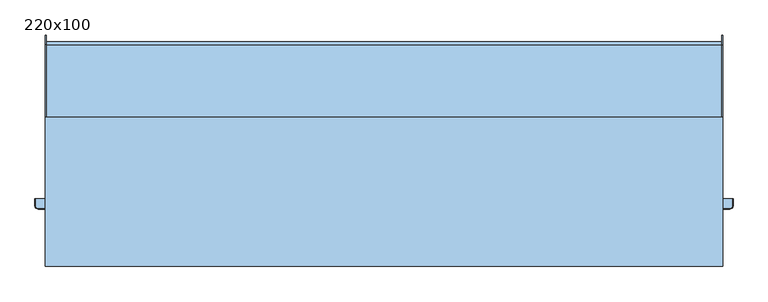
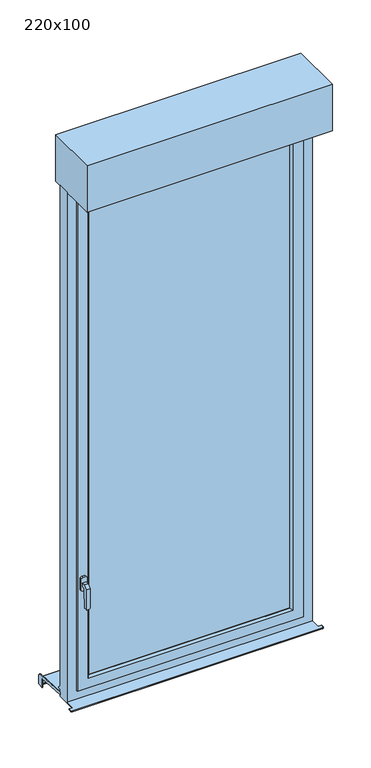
"""IFC4 building model written with IfcOpenShell, lengths in millimetres: window geometry, Tunnel 1V+VR+ Voile : 220x100."""

from ifc_helpers import new_model, si_unit, frame, origin, place, context, project, spatial, polyline, circle_curve, outline, extrude, faceted_brep, source, transform, mapped, element, save
from ifc_brep_helpers import plane_surface, cylinder_surface, revolved_surface, advanced_brep


def window_220x100_ace72829(model_context):
    return source(origin(), model_context, "Body", "SolidModel", [
        faceted_brep([(-445.5, -73.0, 1306.0), (-429.5, -73.0, 1306.0), (-429.5, -73.0, 1294.0), (-445.5, -73.0, 1294.0), (-445.5, -85.4852814, 1306.0), (-429.5, -85.4852814, 1306.0), (-429.5, -99.0, 1292.4852814), (-429.5, -99.0, 1208.5355339), (-429.5, -89.7580139, 1208.5355339), (-429.5, -87.0099909, 1287.2286157), (-429.5, -87.0, 1287.5147186), (-429.5, -80.5147186, 1294.0), (-445.5, -80.5147186, 1294.0), (-445.5, -87.0, 1287.5147186), (-445.5, -87.0, 1287.2282668), (-445.5, -89.7580139, 1208.5355339), (-445.5, -99.0, 1208.5355339), (-445.5, -99.0, 1292.4852814), (-433.0355339, -99.0, 1205.0), (-441.9644661, -99.0, 1205.0), (-441.9644661, -89.8814775, 1205.0), (-433.0355339, -89.8814775, 1205.0)], [[[0, 1, 2, 3]], [[1, 0, 4, 5]], [[2, 1, 5, 6, 7, 8, 9, 10, 11]], [[3, 2, 11, 12]], [[0, 3, 12, 13, 14, 15, 16, 17, 4]], [[5, 4, 17, 6]], [[11, 10, 13, 12]], [[18, 19, 20, 21]], [[6, 17, 16, 19, 18, 7]], [[13, 10, 9, 14]], [[14, 9, 8, 21, 20, 15]], [[8, 7, 18, 21]], [[16, 15, 20, 19]]]),
        extrude(outline(polyline([(1330.0, -444.5), (1325.0, -449.5), (1275.0, -449.5), (1270.0, -444.5), (1270.0, -430.5), (1275.0, -425.5), (1325.0, -425.5), (1330.0, -430.5), (1330.0, -444.5)])), frame((0.0, -73.0, 0.0), z_axis=(0.0, 1.0, 0.0), x_axis=(0.0, 0.0, 1.0)), (0.0, 0.0, 1.0), 8.0),
        advanced_brep(
        [(-500.0, 115.0, 762.0), (-500.0, 115.0, 799.2138833), (-500.0, -10.0, 805.7648557), (-500.0, -10.0, 817.2806377), (-500.0, 127.2850393, 810.0858337), (-500.0, 141.5, 795.1063906), (-500.0, 141.5, 762.0), (500.0, 115.0, 799.2138833), (500.0, 115.0, 762.0), (500.0, 141.5, 762.0), (500.0, 141.5, 795.1063906), (500.0, 127.2850393, 810.0858337), (500.0, -10.0, 817.2806377), (500.0, -10.0, 805.7648557), (-498.0, -10.0, 817.2806377), (498.0, -10.0, 817.2806377), (498.0, -10.0, 807.2669142), (-498.0, -10.0, 807.2669142), (-498.0, 126.7616798, 800.0995383), (498.0, 126.7616798, 800.0995383), (498.0, 131.5, 795.1063906), (498.0, 131.5, 762.0), (-498.0, 131.5, 762.0), (-498.0, 131.5, 795.1063906), (-498.0, 130.0, 762.0), (-498.0, 115.0, 762.0), (-498.0, 141.5, 762.0), (498.0, 141.5, 762.0), (498.0, 115.0, 762.0), (498.0, 130.0, 762.0), (-498.0, 120.0, 772.0), (498.0, 120.0, 772.0), (-498.0, 121.0606602, 773.0606602), (498.0, 121.0606602, 773.0606602), (-498.0, 130.0, 764.1213203), (498.0, 130.0, 764.1213203), (-498.0, 130.0, 795.0728058), (498.0, 130.0, 795.0728058), (-498.0, 115.0, 799.2138833), (-498.0, 126.649637, 798.6033517), (498.0, 126.649637, 798.6033517), (498.0, 115.0, 799.2138833), (498.0, 127.2850393, 810.0858337), (498.0, 141.5, 795.1063906), (-498.0, 141.5, 795.1063906), (-498.0, 127.2850393, 810.0858337)],
        [
            (0, 1),
            (1, 2),
            (2, 3),
            (3, 4),
            (4, 5, circle_curve(frame((-500.0, 126.5, 795.1063906), z_axis=(-1.0, 0.0, 0.0), x_axis=(0.0, 0.05233595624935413, 0.9986295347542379)), 15.0)),
            (5, 6),
            (6, 0),
            (7, 8),
            (8, 9),
            (9, 10),
            (10, 11, circle_curve(frame((500.0, 126.5, 795.1063906), z_axis=(1.0, 0.0, 0.0), x_axis=(0.0, 1.0, 0.0)), 15.0)),
            (11, 12),
            (12, 13),
            (13, 7),
            (14, 3),
            (2, 13),
            (12, 15),
            (15, 16),
            (16, 17),
            (17, 14),
            (18, 17),
            (16, 19),
            (19, 18),
            (20, 21),
            (21, 22),
            (22, 23),
            (23, 20),
            (24, 25),
            (25, 0),
            (6, 26),
            (26, 22),
            (21, 27),
            (27, 9),
            (8, 28),
            (28, 29),
            (29, 24),
            (30, 24),
            (29, 31),
            (31, 30),
            (32, 30),
            (31, 33),
            (33, 32),
            (34, 32),
            (33, 35),
            (35, 34),
            (36, 34),
            (35, 37),
            (37, 36),
            (38, 39),
            (39, 40),
            (40, 41),
            (41, 7),
            (1, 38),
            (38, 25),
            (36, 39, circle_curve(frame((-498.0, 126.4646089, 795.0728058), z_axis=(1.0, 0.0, 0.0), x_axis=(0.0, -1.0, 0.0)), 3.5353911)),
            (28, 41),
            (40, 37, circle_curve(frame((498.0, 126.4646089, 795.0728058), z_axis=(-1.0, 0.0, 0.0), x_axis=(0.0, -1.0, 0.0)), 3.5353911)),
            (19, 20, circle_curve(frame((498.0, 126.5, 795.1063906), z_axis=(-1.0, 0.0, 0.0), x_axis=(0.0, -1.0, 0.0)), 5.0)),
            (23, 18, circle_curve(frame((-498.0, 126.5, 795.1063906), z_axis=(1.0, 0.0, 0.0), x_axis=(0.0, -1.0, 0.0)), 5.0)),
            (15, 42),
            (42, 43, circle_curve(frame((498.0, 126.5, 795.1063906), z_axis=(-1.0, 0.0, 0.0), x_axis=(0.0, 1.0, 0.0)), 15.0)),
            (43, 27),
            (43, 10),
            (42, 11),
            (26, 44),
            (44, 45, circle_curve(frame((-498.0, 126.5, 795.1063906), z_axis=(1.0, 0.0, 0.0), x_axis=(0.0, 0.05233595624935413, 0.9986295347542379)), 15.0)),
            (45, 14),
            (45, 4),
            (44, 5),
        ],
        [
            plane_surface(frame((-500.0, -10.0, 805.7648557), z_axis=(-1.0, 0.0, 0.0), x_axis=(0.0, 0.0, 1.0))),
            plane_surface(frame((500.0, -10.0, 805.7648557), z_axis=(1.0, 0.0, 0.0), x_axis=(0.0, 0.0, -1.0))),
            plane_surface(frame((-500.0, -10.0, 805.7648557), z_axis=(0.0, -1.0, 0.0), x_axis=(1.0, 0.0, 0.0))),
            plane_surface(frame((-500.0, -10.0, 807.2669142), z_axis=(0.0, 0.052335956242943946, 0.9986295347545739), x_axis=(1.0, 0.0, 0.0))),
            plane_surface(frame((-500.0, 131.5, 795.1063906), z_axis=(0.0, 1.0, 0.0), x_axis=(1.0, 0.0, 0.0))),
            plane_surface(frame((-500.0, 131.5, 762.0), z_axis=(0.0, 0.0, -1.0), x_axis=(1.0, 0.0, 0.0))),
            plane_surface(frame((-500.0, 130.0, 762.0), z_axis=(0.0, -0.7071067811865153, -0.7071067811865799), x_axis=(1.0, 0.0, 0.0))),
            plane_surface(frame((-500.0, 120.0, 772.0), z_axis=(0.0, -0.7071067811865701, 0.707106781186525), x_axis=(1.0, 0.0, 0.0))),
            plane_surface(frame((-500.0, 121.0606602, 773.0606602), z_axis=(0.0, 0.7071067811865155, 0.7071067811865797), x_axis=(1.0, 0.0, 0.0))),
            plane_surface(frame((-500.0, 130.0, 764.1213203), z_axis=(0.0, -1.0, 0.0), x_axis=(1.0, 0.0, 0.0))),
            plane_surface(frame((-500.0, 126.649637, 798.6033517), z_axis=(0.0, -0.0523359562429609, -0.998629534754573), x_axis=(1.0, 0.0, 0.0))),
            plane_surface(frame((-498.0, 130.0, 798.4277666), z_axis=(1.0, 0.0, 0.0), x_axis=(0.0, -0.9986295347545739, 0.05233595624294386))),
            plane_surface(frame((-500.0, 115.0, 762.0), z_axis=(0.0, -1.0, 0.0), x_axis=(1.0, 0.0, 0.0))),
            plane_surface(frame((498.0, 130.0, 798.4277666), z_axis=(-1.0, 0.0, 0.0), x_axis=(0.0, 0.0, -1.0))),
            plane_surface(frame((498.0, 115.0, 762.0), z_axis=(0.0, -1.0, 0.0), x_axis=(1.0, 0.0, 0.0))),
            cylinder_surface(frame((500.0, 126.5, 795.1063906), z_axis=(-1.0, 0.0, 0.0), x_axis=(0.0, -1.0, 0.0)), 5.0),
            revolved_surface(polyline([(498.0, 122.9292178, 795.0728058), (-498.0, 122.9292178, 795.0728058)]), (500.0, 126.4646089, 795.0728058), (1.0, 0.0, 0.0)),
            plane_surface(frame((498.0, 131.5, 762.0), z_axis=(-1.0, 0.0, 0.0), x_axis=(0.0, 0.0, 1.0))),
            plane_surface(frame((498.0, 141.5, 762.0), z_axis=(0.0, 1.0, 0.0), x_axis=(0.0, 0.0, 1.0))),
            cylinder_surface(frame((500.0, 126.5, 795.1063906), z_axis=(1.0, 0.0, 0.0), x_axis=(0.0, 1.0, 0.0)), 15.0),
            plane_surface(frame((498.0, 127.2850393, 810.0858337), z_axis=(0.0, 0.0523359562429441, 0.9986295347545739), x_axis=(0.0, -0.9986295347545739, 0.0523359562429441))),
            plane_surface(frame((-498.0, -10.0, 817.2806377), z_axis=(1.0, 0.0, 0.0), x_axis=(0.0, -0.9986295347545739, 0.05233595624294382))),
            plane_surface(frame((-500.0, -10.0, 817.2806377), z_axis=(0.0, 0.05233595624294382, 0.9986295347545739), x_axis=(1.0, 0.0, 0.0))),
            cylinder_surface(frame((-500.0, 126.5, 795.1063906), z_axis=(-1.0, 0.0, 0.0), x_axis=(0.0, 0.05233595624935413, 0.9986295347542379)), 15.0),
            plane_surface(frame((-498.0, 141.5, 795.1063906), z_axis=(0.0, 1.0, 0.0), x_axis=(0.0, 0.0, -1.0))),
        ],
        [
            (0, [[1, 2, 3, 4, 5, 6, 7]]),
            (1, [[8, 9, 10, 11, 12, 13, 14]]),
            (2, [[15, -3, 16, -13, 17, 18, 19, 20]]),
            (3, [[21, -19, 22, 23]]),
            (4, [[24, 25, 26, 27]]),
            (5, [[28, 29, -7, 30, 31, -25, 32, 33, -9, 34, 35, 36]]),
            (6, [[37, -36, 38, 39]]),
            (7, [[40, -39, 41, 42]]),
            (8, [[43, -42, 44, 45]]),
            (9, [[46, -45, 47, 48]]),
            (10, [[49, 50, 51, 52, -14, -16, -2, 53]]),
            (11, [[54, -28, -37, -40, -43, -46, 55, -49]]),
            (12, [[-54, -53, -1, -29]]),
            (13, [[-35, 56, -51, 57, -47, -44, -41, -38]]),
            (14, [[-56, -34, -8, -52]]),
            (15, [[58, -27, 59, -23]]),
            (16, [[-55, -48, -57, -50]]),
            (17, [[-32, -24, -58, -22, -18, 60, 61, 62]]),
            (18, [[-33, -62, 63, -10]]),
            (19, [[-11, -63, -61, 64]]),
            (20, [[-64, -60, -17, -12]]),
            (21, [[-20, -21, -59, -26, -31, 65, 66, 67]]),
            (22, [[-4, -15, -67, 68]]),
            (23, [[-5, -68, -66, 69]]),
            (24, [[-6, -69, -65, -30]]),
        ],
    ),
        extrude(outline(polyline([(-410.0, -55.0), (-410.0, -35.0), (410.0, -35.0), (410.0, -55.0), (-410.0, -55.0)])), frame((0.0, 0.0, 890.0), z_axis=(0.0, 0.0, 1.0), x_axis=(1.0, 0.0, 0.0)), (0.0, 0.0, 1.0), 2020.0),
        faceted_brep([(-460.0, -65.0, 840.0), (-460.0, -25.0, 840.0), (460.0, -25.0, 840.0), (460.0, -65.0, 840.0), (460.0, -25.0, 2960.0), (460.0, -65.0, 2960.0), (-460.0, -25.0, 2960.0), (417.0710678, -25.0, 2917.0710678), (-417.0710678, -25.0, 2917.0710678), (-417.0710678, -25.0, 882.9289322), (417.0710678, -25.0, 882.9289322), (-460.0, -65.0, 2960.0), (417.0710678, -65.0, 882.9289322), (-417.0710678, -65.0, 882.9289322), (-417.0710678, -65.0, 2917.0710678), (417.0710678, -65.0, 2917.0710678), (-410.0, -57.9289322, 890.0), (410.0, -57.9289322, 890.0), (410.0, -57.9289322, 2910.0), (410.0, -32.0710678, 890.0), (410.0, -32.0710678, 2910.0), (-410.0, -32.0710678, 890.0), (-410.0, -57.9289322, 2910.0), (-410.0, -32.0710678, 2910.0)], [[[0, 1, 2, 3]], [[3, 2, 4, 5]], [[2, 1, 6, 4], [7, 8, 9, 10]], [[5, 11, 0, 3], [12, 13, 14, 15]], [[16, 13, 12, 17]], [[17, 12, 15, 18]], [[19, 17, 18, 20]], [[9, 21, 19, 10]], [[10, 19, 20, 7]], [[11, 6, 1, 0]], [[22, 14, 13, 16]], [[23, 22, 16, 21]], [[8, 23, 21, 9]], [[21, 16, 17, 19]], [[5, 4, 6, 11]], [[18, 15, 14, 22]], [[7, 20, 23, 8]], [[20, 18, 22, 23]]]),
        faceted_brep([(500.0, -10.0, 800.0), (500.0, -10.0, 830.0), (500.0, 0.0, 830.0), (500.0, 0.0, 835.0), (500.0, -10.0, 845.0), (500.0, -10.0, 3000.0), (500.0, -60.0, 3000.0), (500.0, -60.0, 800.0), (-500.0, -10.0, 800.0), (-500.0, -10.0, 830.0), (-500.0, 0.0, 830.0), (-500.0, 0.0, 835.0), (-500.0, -10.0, 845.0), (-455.0, -10.0, 845.0), (-450.0, -15.0, 850.0), (450.0, -15.0, 850.0), (455.0, -10.0, 845.0), (-500.0, -10.0, 3000.0), (455.0, -10.0, 2955.0), (-455.0, -10.0, 2955.0), (-500.0, -60.0, 3000.0), (-500.0, -60.0, 800.0), (460.0, -60.0, 840.0), (-460.0, -60.0, 840.0), (-460.0, -60.0, 2960.0), (460.0, -60.0, 2960.0), (460.0, -25.0, 840.0), (-460.0, -25.0, 840.0), (-460.0, -25.0, 2960.0), (460.0, -25.0, 2960.0), (450.0, -25.0, 850.0), (-450.0, -25.0, 850.0), (-450.0, -25.0, 2950.0), (450.0, -25.0, 2950.0), (-450.0, -15.0, 2950.0), (450.0, -15.0, 2950.0)], [[[0, 1, 2, 3, 4, 5, 6, 7]], [[1, 0, 8, 9]], [[2, 1, 9, 10]], [[3, 2, 10, 11]], [[3, 11, 12, 13, 14, 15, 16, 4]], [[17, 5, 4, 16, 18, 19, 13, 12]], [[7, 6, 20, 21], [22, 23, 24, 25]], [[0, 7, 21, 8]], [[8, 21, 20, 17, 12, 11, 10, 9]], [[23, 22, 26, 27]], [[27, 28, 24, 23]], [[22, 25, 29, 26]], [[29, 28, 27, 26], [30, 31, 32, 33]], [[31, 30, 15, 14]], [[34, 32, 31, 14]], [[33, 35, 15, 30]], [[35, 18, 16, 15]], [[19, 34, 14, 13]], [[5, 17, 20, 6]], [[28, 29, 25, 24]], [[33, 32, 34, 35]], [[19, 18, 35, 34]]]),
        advanced_brep(
        [(500.0, -100.0, 805.0), (500.0, -60.0, 805.0), (-500.0, -60.0, 805.0), (-500.0, -100.0, 805.0), (-513.9971508, -100.0, 805.0), (-513.9971508, -110.0, 805.0), (-510.0, -113.9971508, 805.0), (510.0, -113.9971508, 805.0), (513.9971508, -110.0, 805.0), (513.9971508, -100.0, 805.0), (-500.0, -100.0, 800.0), (-500.0, -60.0, 800.0), (500.0, -60.0, 800.0), (500.0, -100.0, 800.0), (513.9971508, -100.0, 800.0), (513.9971508, -110.0, 800.0), (510.0, -113.9971508, 800.0), (-510.0, -113.9971508, 800.0), (-513.9971508, -110.0, 800.0), (-513.9971508, -100.0, 800.0), (-515.0, -110.0, 801.0028492), (-515.0, -110.0, 803.9971508), (-515.0, -100.0, 803.9971508), (-515.0, -100.0, 801.0028492), (515.0, -100.0, 803.9971508), (515.0, -100.0, 801.0028492), (515.0, -110.0, 803.9971508), (515.0, -110.0, 801.0028492), (510.0, -115.0, 801.0028492), (510.0, -115.0, 803.9971508), (-510.0, -115.0, 803.9971508), (-510.0, -115.0, 801.0028492)],
        [
            (0, 1),
            (1, 2),
            (2, 3),
            (3, 4),
            (4, 5),
            (5, 6, circle_curve(frame((-510.0, -110.0, 805.0), z_axis=(0.0, 0.0, 1.0), x_axis=(-1.0, 0.0, 0.0)), 3.9971508)),
            (6, 7),
            (7, 8, circle_curve(frame((510.0, -110.0, 805.0), z_axis=(0.0, 0.0, 1.0), x_axis=(0.0, -1.0, 0.0)), 3.9971508)),
            (8, 9),
            (9, 0),
            (10, 11),
            (11, 12),
            (12, 13),
            (13, 14),
            (14, 15),
            (15, 16, circle_curve(frame((510.0, -110.0, 800.0), z_axis=(0.0, 0.0, -1.0), x_axis=(0.0, -1.0, 0.0)), 3.9971508)),
            (16, 17),
            (17, 18, circle_curve(frame((-510.0, -110.0, 800.0), z_axis=(0.0, 0.0, -1.0), x_axis=(-1.0, 0.0, 0.0)), 3.9971508)),
            (18, 19),
            (19, 10),
            (20, 21),
            (21, 22),
            (22, 23),
            (23, 20),
            (3, 10),
            (19, 23),
            (22, 4),
            (2, 11),
            (1, 12),
            (0, 13),
            (9, 24),
            (24, 25),
            (25, 14),
            (24, 26),
            (26, 27),
            (27, 25),
            (28, 29),
            (29, 30),
            (30, 31),
            (31, 28),
            (28, 27, circle_curve(frame((510.0, -110.0, 801.0028492), z_axis=(0.0, 0.0, 1.0), x_axis=(0.0, -1.0, 0.0)), 5.0)),
            (26, 29, circle_curve(frame((510.0, -110.0, 803.9971508), z_axis=(0.0, 0.0, -1.0), x_axis=(0.0, -1.0, 0.0)), 5.0)),
            (20, 31, circle_curve(frame((-510.0, -110.0, 801.0028492), z_axis=(0.0, 0.0, 1.0), x_axis=(0.0, -1.0, 0.0)), 5.0)),
            (30, 21, circle_curve(frame((-510.0, -110.0, 803.9971508), z_axis=(0.0, 0.0, -1.0), x_axis=(0.0, -1.0, 0.0)), 5.0)),
            (21, 5),
            (18, 20),
            (30, 6),
            (17, 31),
            (29, 7),
            (16, 28),
            (26, 8),
            (15, 27),
        ],
        [
            plane_surface(frame((-515.0, -100.0, 805.0), z_axis=(0.0, 0.0, 1.0), x_axis=(0.0, -1.0, 0.0))),
            plane_surface(frame((-515.0, -100.0, 800.0), z_axis=(0.0, 0.0, -1.0), x_axis=(0.0, 1.0, 0.0))),
            plane_surface(frame((-515.0, -110.0, 800.0), z_axis=(-1.0, 0.0, 0.0), x_axis=(0.0, 0.0, 1.0))),
            plane_surface(frame((-515.0, -100.0, 800.0), z_axis=(0.0, 1.0, 0.0), x_axis=(0.0, 0.0, 1.0))),
            plane_surface(frame((-500.0, -100.0, 800.0), z_axis=(-1.0, 0.0, 0.0), x_axis=(0.0, 0.0, 1.0))),
            plane_surface(frame((-500.0, -60.0, 800.0), z_axis=(0.0, 1.0, 0.0), x_axis=(0.0, 0.0, 1.0))),
            plane_surface(frame((500.0, -60.0, 800.0), z_axis=(1.0, 0.0, 0.0), x_axis=(0.0, 0.0, 1.0))),
            plane_surface(frame((500.0, -100.0, 800.0), z_axis=(0.0, 1.0, 0.0), x_axis=(0.0, 0.0, 1.0))),
            plane_surface(frame((515.0, -100.0, 800.0), z_axis=(1.0, 0.0, 0.0), x_axis=(0.0, 0.0, 1.0))),
            plane_surface(frame((510.0, -115.0, 800.0), z_axis=(0.0, -1.0, 0.0), x_axis=(0.0, 0.0, 1.0))),
            cylinder_surface(frame((510.0, -110.0, 805.0), z_axis=(0.0, 0.0, -1.0), x_axis=(0.0, -1.0, 0.0)), 5.0),
            cylinder_surface(frame((-510.0, -110.0, 805.0), z_axis=(0.0, 0.0, -1.0), x_axis=(0.0, -1.0, 0.0)), 5.0),
            plane_surface(frame((-513.9971508, -100.0, 805.0), z_axis=(-0.7071067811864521, 0.0, 0.707106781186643), x_axis=(0.0, -1.0, 0.0))),
            plane_surface(frame((-515.0, -100.0, 801.0028492), z_axis=(-0.7071067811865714, 0.0, -0.7071067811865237), x_axis=(0.0, -1.0, 0.0))),
            revolved_surface(polyline([(-515.0, -110.0, 803.9971508), (-513.9971508, -110.0, 805.0)]), (-510.0, -110.0, 805.0), (0.0, 0.0, 1.0)),
            revolved_surface(polyline([(-513.9971508, -110.0, 800.0), (-515.0, -110.0, 801.0028492)]), (-510.0, -110.0, 805.0), (0.0, 0.0, 1.0)),
            plane_surface(frame((-510.0, -113.9971508, 805.0), z_axis=(0.0, -0.7071067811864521, 0.707106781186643), x_axis=(1.0, 0.0, 0.0))),
            plane_surface(frame((-510.0, -115.0, 801.0028492), z_axis=(0.0, -0.7071067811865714, -0.7071067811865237), x_axis=(1.0, 0.0, 0.0))),
            revolved_surface(polyline([(510.0, -115.0, 803.9971508), (510.0, -113.9971508, 805.0)]), (510.0, -110.0, 805.0), (0.0, 0.0, 1.0)),
            revolved_surface(polyline([(510.0, -113.9971508, 800.0), (510.0, -115.0, 801.0028492)]), (510.0, -110.0, 805.0), (0.0, 0.0, 1.0)),
            plane_surface(frame((513.9971508, -110.0, 805.0), z_axis=(0.7071067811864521, 0.0, 0.707106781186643), x_axis=(0.0, 1.0, 0.0))),
            plane_surface(frame((515.0, -110.0, 801.0028492), z_axis=(0.7071067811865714, 0.0, -0.7071067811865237), x_axis=(0.0, 1.0, 0.0))),
        ],
        [
            (0, [[1, 2, 3, 4, 5, 6, 7, 8, 9, 10]]),
            (1, [[11, 12, 13, 14, 15, 16, 17, 18, 19, 20]]),
            (2, [[21, 22, 23, 24]]),
            (3, [[25, -20, 26, -23, 27, -4]]),
            (4, [[-3, 28, -11, -25]]),
            (5, [[-2, 29, -12, -28]]),
            (6, [[-1, 30, -13, -29]]),
            (7, [[-30, -10, 31, 32, 33, -14]]),
            (8, [[-32, 34, 35, 36]]),
            (9, [[37, 38, 39, 40]]),
            (10, [[-37, 41, -35, 42]]),
            (11, [[-21, 43, -39, 44]]),
            (12, [[45, -5, -27, -22]]),
            (13, [[46, -24, -26, -19]]),
            (14, [[-45, -44, 47, -6]]),
            (15, [[-46, -18, 48, -43]]),
            (16, [[-47, -38, 49, -7]]),
            (17, [[-48, -17, 50, -40]]),
            (18, [[-49, -42, 51, -8]]),
            (19, [[-50, -16, 52, -41]]),
            (20, [[-51, -34, -31, -9]]),
            (21, [[-52, -15, -33, -36]]),
        ],
    ),
        extrude(outline(polyline([(-500.0, -200.0), (-500.0, 20.0), (500.0, 20.0), (500.0, -200.0), (-500.0, -200.0)])), frame((0.0, 0.0, 3000.0), z_axis=(0.0, 0.0, 1.0), x_axis=(1.0, 0.0, 0.0)), (0.0, 0.0, 1.0), 200.0),
    ])


if __name__ == "__main__":
    model = new_model("IFC4")
    model_context = context("Model", 3, world=origin())
    ifc_project = project(units=[si_unit("LENGTHUNIT", "METRE", prefix="MILLI")], contexts=[model_context])
    site = spatial("IfcSite", under=ifc_project)
    building = spatial("IfcBuilding", under=site)
    placement = place(None, origin())
    window_220x100_shape = window_220x100_ace72829(model_context)
    element("IfcWindow", 1, ObjectType="Tunnel 1V+VR+ Voile : 220x100", at=placement, inside=building, context=model_context, shape_type="MappedRepresentation", body=[
        mapped(window_220x100_shape, transform((0.0, 0.0, 0.0), x_axis=(1.0, 0.0, 0.0), y_axis=(0.0, 1.0, 0.0), z_axis=(0.0, 0.0, 1.0))),
    ])
    save(model, "model.ifc")
